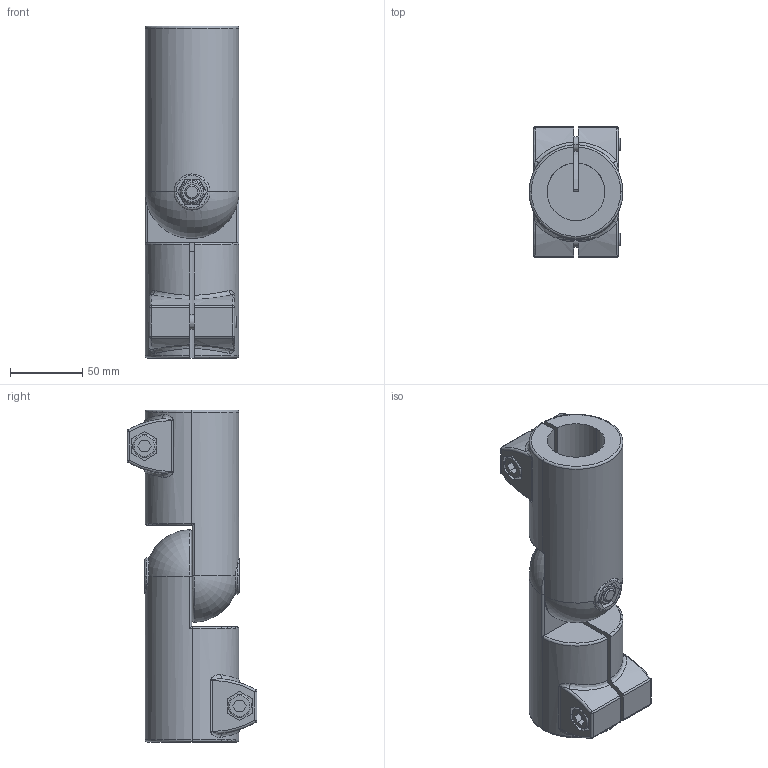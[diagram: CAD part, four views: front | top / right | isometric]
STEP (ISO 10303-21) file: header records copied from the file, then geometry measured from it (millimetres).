
FILE_DESCRIPTION (( 'STEP AP214' ), '1' );
FILE_NAME ('286-B40-B42-S-2-BL.step', '2021-12-02T12:15:19', ( '' ), ( '' ), 'SwSTEP 2.0', 'SolidWorks 2019', '' );
FILE_SCHEMA (( 'AUTOMOTIVE_DESIGN' ));
Length unit declared in the file: millimetre
Products named in the file (3): 286-B40-B42-S-2-BL; WB276^WB286_B40-IV-2-BL; WB276_1^WB286_B42-MZ-2-BL
Assembly tree (2 placements, depth 2):
  286-B40-B42-S-2-BL
    WB276^WB286_B40-IV-2-BL
    WB276_1^WB286_B42-MZ-2-BL
Bounding box: 65 x 90 x 230 mm (x, y, z)
Volume: 562367.4 mm3; surface area: 108950.3 mm2
Topology: 2 solids, 2 shells, 401 faces, 968 edges, 590 vertices
Faces by surface type: plane 195, cylinder 108, torus 46, cone 24, bspline 20, sphere 8
Entity records: 15770 total; most frequent: CARTESIAN_POINT 5474, ORIENTED_EDGE 1920, DIRECTION 1880, EDGE_CURVE 960, AXIS2_PLACEMENT_3D 738, VERTEX_POINT 590, EDGE_LOOP 434, VECTOR 404
